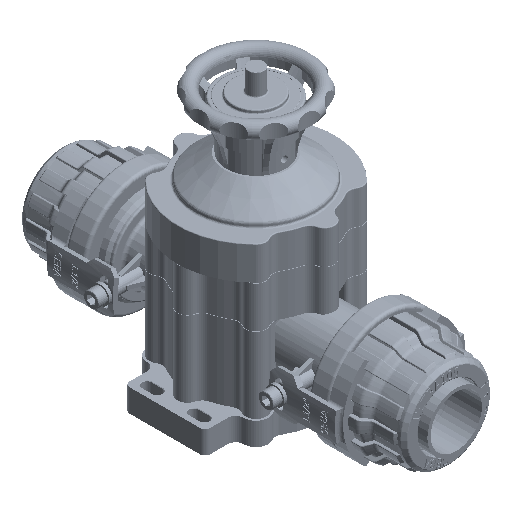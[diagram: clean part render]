
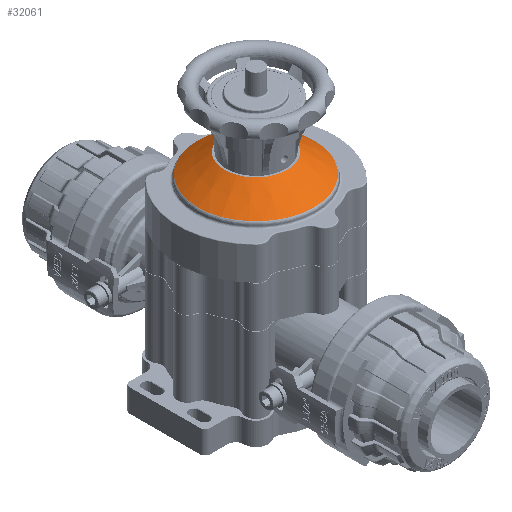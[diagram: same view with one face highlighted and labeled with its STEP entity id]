
A CAD part, isometric view. The second image highlights one B-rep face of the part: STEP entity #32061.
In plain terms, the highlighted conical face has half-angle 54.583 degrees and reference radius 30.833 mm.
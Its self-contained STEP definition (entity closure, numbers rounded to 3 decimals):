
#28034=CONICAL_SURFACE('',#93824,30.833,54.583);
#32061=ADVANCED_FACE('',(#37217,#37218),#28034,.T.);
#37217=FACE_BOUND('',#39038,.T.);
#37218=FACE_BOUND('',#39039,.T.);
#39038=EDGE_LOOP('',(#47266));
#39039=EDGE_LOOP('',(#47267));
#47266=ORIENTED_EDGE('',*,*,#77624,.F.);
#47267=ORIENTED_EDGE('',*,*,#77623,.F.);
#69299=VERTEX_POINT('',#130942);
#69300=VERTEX_POINT('',#130945);
#77623=EDGE_CURVE('',#69299,#69299,#88917,.T.);
#77624=EDGE_CURVE('',#69300,#69300,#88918,.T.);
#88917=CIRCLE('',#93821,38.159);
#88918=CIRCLE('',#93823,20.521);
#93821=AXIS2_PLACEMENT_3D('',#130941,#104352,#104353);
#93823=AXIS2_PLACEMENT_3D('',#130944,#104356,#104357);
#93824=AXIS2_PLACEMENT_3D('',#130946,#104358,#104359);
#104352=DIRECTION('',(0.,0.,-1.));
#104353=DIRECTION('',(-1.,0.,0.));
#104356=DIRECTION('',(0.,0.,1.));
#104357=DIRECTION('',(0.,1.,0.));
#104358=DIRECTION('',(0.,0.,-1.));
#104359=DIRECTION('',(0.,-1.,0.));
#130941=CARTESIAN_POINT('',(0.,0.,25.457));
#130942=CARTESIAN_POINT('',(38.159,0.,25.457));
#130944=CARTESIAN_POINT('',(0.,0.,
38.));
#130945=CARTESIAN_POINT('',(0.,-20.521,38.));
#130946=CARTESIAN_POINT('',(0.,0.,
30.667));
